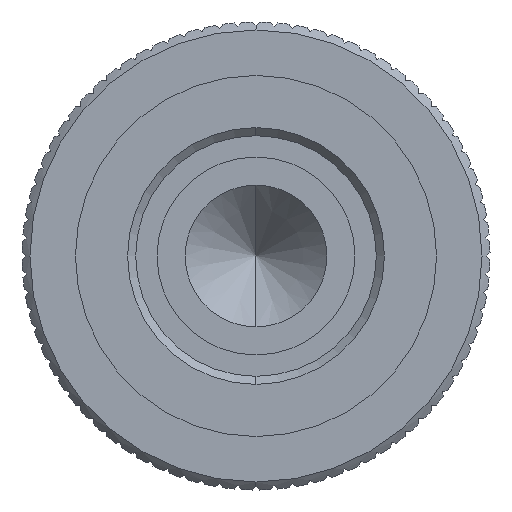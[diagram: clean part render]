
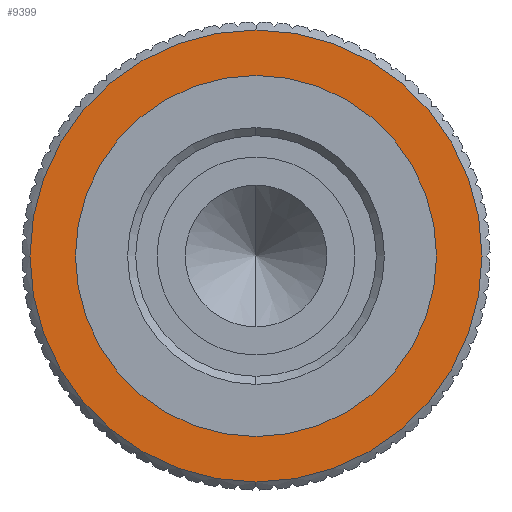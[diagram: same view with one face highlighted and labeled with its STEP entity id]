
A CAD part, front view. The second image highlights one B-rep face of the part: STEP entity #9399.
In plain terms, the highlighted planar face has unit normal (0, -1, 0).
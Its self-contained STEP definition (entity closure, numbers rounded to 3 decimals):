
#221 = DIRECTION ( 'NONE',  ( 0., 0., -1. ) ) ;
#377 = ORIENTED_EDGE ( 'NONE', *, *, #10490, .T. ) ;
#1375 = CARTESIAN_POINT ( 'NONE',  ( 6.5, -10.8, 0. ) ) ;
#1874 = CARTESIAN_POINT ( 'NONE',  ( 0., -10.8, 0. ) ) ;
#2533 = EDGE_CURVE ( 'NONE', #17077, #10601, #13608, .T. ) ;
#2906 = CARTESIAN_POINT ( 'NONE',  ( 0., -10.8, 6.5 ) ) ;
#3303 = CIRCLE ( 'NONE', #21943, 8.45 ) ;
#3890 = DIRECTION ( 'NONE',  ( 0., 0., -1. ) ) ;
#4291 = ORIENTED_EDGE ( 'NONE', *, *, #5097, .F. ) ;
#4621 = DIRECTION ( 'NONE',  ( 0., 0., -1. ) ) ;
#5037 = EDGE_LOOP ( 'NONE', ( #10992, #377 ) ) ;
#5097 = EDGE_CURVE ( 'NONE', #13397, #21202, #7193, .T. ) ;
#5423 = DIRECTION ( 'NONE',  ( 0., 0., -1. ) ) ;
#6371 = CARTESIAN_POINT ( 'NONE',  ( 0., -10.8, 0. ) ) ;
#7109 = DIRECTION ( 'NONE',  ( 0., 0., -1. ) ) ;
#7193 = CIRCLE ( 'NONE', #8115, 6.5 ) ;
#8115 = AXIS2_PLACEMENT_3D ( 'NONE', #23600, #8702, #4621 ) ;
#8702 = DIRECTION ( 'NONE',  ( 0., -1., 0. ) ) ;
#9260 = FACE_BOUND ( 'NONE', #19064, .T. ) ;
#9399 = ADVANCED_FACE ( 'NONE', ( #13642, #9260 ), #11482, .T. ) ;
#10490 = EDGE_CURVE ( 'NONE', #10601, #17077, #3303, .T. ) ;
#10601 = VERTEX_POINT ( 'NONE', #26211 ) ;
#10992 = ORIENTED_EDGE ( 'NONE', *, *, #2533, .T. ) ;
#11212 = DIRECTION ( 'NONE',  ( 0., -1., 0. ) ) ;
#11482 = PLANE ( 'NONE',  #14530 ) ;
#12521 = EDGE_CURVE ( 'NONE', #21202, #13397, #18637, .T. ) ;
#12556 = ORIENTED_EDGE ( 'NONE', *, *, #12521, .F. ) ;
#13397 = VERTEX_POINT ( 'NONE', #2906 ) ;
#13608 = CIRCLE ( 'NONE', #24822, 8.45 ) ;
#13642 = FACE_OUTER_BOUND ( 'NONE', #5037, .T. ) ;
#14063 = CARTESIAN_POINT ( 'NONE',  ( 0., -10.8, 8.45 ) ) ;
#14530 = AXIS2_PLACEMENT_3D ( 'NONE', #1375, #11212, #7109 ) ;
#17077 = VERTEX_POINT ( 'NONE', #14063 ) ;
#18637 = CIRCLE ( 'NONE', #25511, 6.5 ) ;
#18976 = DIRECTION ( 'NONE',  ( 0., -1., 0. ) ) ;
#19064 = EDGE_LOOP ( 'NONE', ( #12556, #4291 ) ) ;
#21202 = VERTEX_POINT ( 'NONE', #24740 ) ;
#21943 = AXIS2_PLACEMENT_3D ( 'NONE', #6371, #22488, #3890 ) ;
#22488 = DIRECTION ( 'NONE',  ( 0., -1., 0. ) ) ;
#23600 = CARTESIAN_POINT ( 'NONE',  ( 0., -10.8, 0. ) ) ;
#24639 = CARTESIAN_POINT ( 'NONE',  ( 0., -10.8, 0. ) ) ;
#24740 = CARTESIAN_POINT ( 'NONE',  ( 0., -10.8, -6.5 ) ) ;
#24822 = AXIS2_PLACEMENT_3D ( 'NONE', #24639, #18976, #221 ) ;
#25511 = AXIS2_PLACEMENT_3D ( 'NONE', #1874, #26306, #5423 ) ;
#26211 = CARTESIAN_POINT ( 'NONE',  ( 0., -10.8, -8.45 ) ) ;
#26306 = DIRECTION ( 'NONE',  ( 0., -1., 0. ) ) ;
